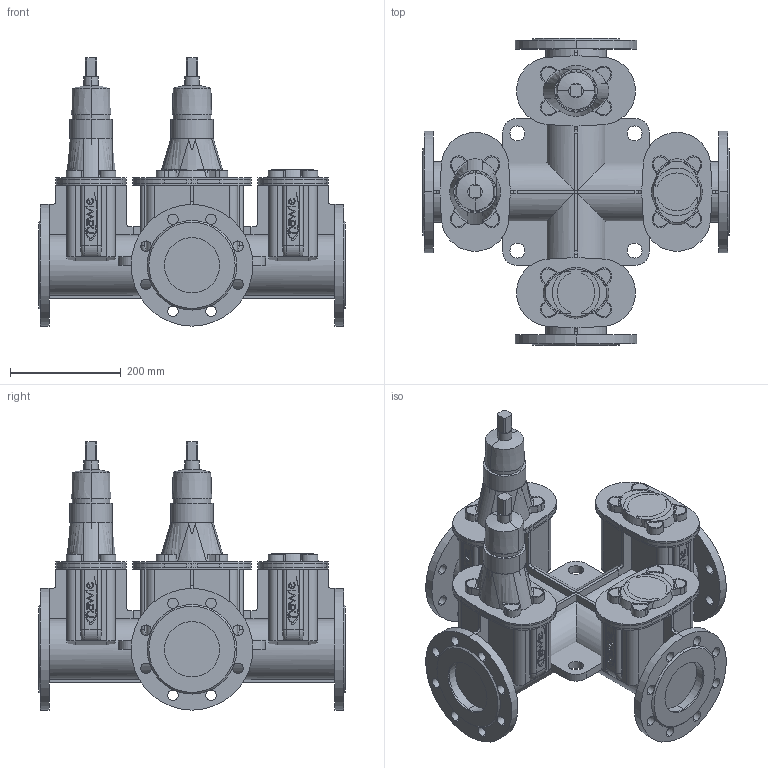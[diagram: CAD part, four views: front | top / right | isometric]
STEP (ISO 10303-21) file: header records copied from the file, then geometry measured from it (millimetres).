
FILE_DESCRIPTION(('STEP AP214'),'1');
FILE_NAME('S:/EK/USER/CAT6/3DHomepage_27-04-2012/neu_23-01-2013/4400E2/4400E2_PN16_DN100_2_9-12-B-B.STP','2013-01-23T15:15:39',(' '),(' '),'Spatial InterOp 3D',' ',' ');
FILE_SCHEMA(('automotive_design'));
Length unit declared in the file: millimetre
Products named in the file (174): 3D-Objekt
Bounding box: 555 x 555 x 485 mm (x, y, z)
Volume: 23709873.1 mm3; surface area: 2572257.8 mm2
Topology: 174 solids, 174 shells, 1690 faces, 3992 edges, 2658 vertices
Faces by surface type: plane 946, cylinder 656, bspline 48, cone 24, torus 16
Entity records: 67352 total; most frequent: CARTESIAN_POINT 9330, DIRECTION 9124, ORIENTED_EDGE 7984, EDGE_CURVE 3992, AXIS2_PLACEMENT_3D 3316, VERTEX_POINT 2658, LINE 2492, VECTOR 2492
